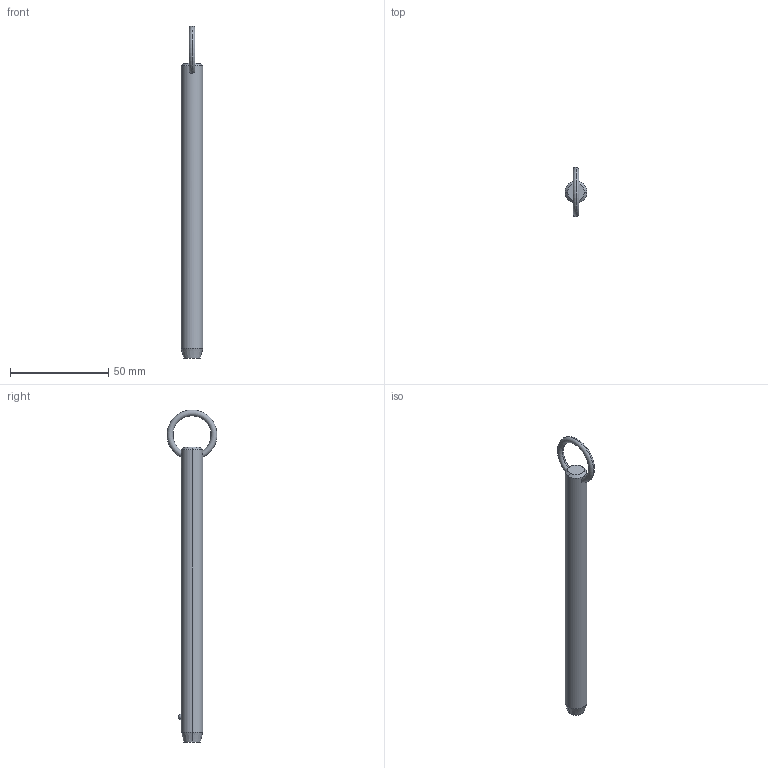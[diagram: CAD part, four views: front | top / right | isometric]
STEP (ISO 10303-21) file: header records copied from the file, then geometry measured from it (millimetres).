
FILE_DESCRIPTION (( 'STEP AP203' ), '1' );
FILE_NAME ('P1250.050-510.step', '2019-07-29T20:38:47', ( '' ), ( '' ), 'SwSTEP 2.0', 'SolidWorks 2017', '' );
FILE_SCHEMA (( 'CONFIG_CONTROL_DESIGN' ));
Length unit declared in the file: millimetre
Products named in the file (1): P1250.050-510
Bounding box: 11.1 x 25.32 x 169.05 mm (x, y, z)
Volume: 14807.7 mm3; surface area: 5886.9 mm2
Topology: 1 solids, 1 shells, 12 faces, 28 edges, 17 vertices
Faces by surface type: cone 4, torus 2, sphere 2, cylinder 2, plane 2
Entity records: 523 total; most frequent: CARTESIAN_POINT 190, DIRECTION 56, ORIENTED_EDGE 48, AXIS2_PLACEMENT_3D 25, EDGE_CURVE 24, EDGE_LOOP 15, VERTEX_POINT 15, FACE_OUTER_BOUND 12
